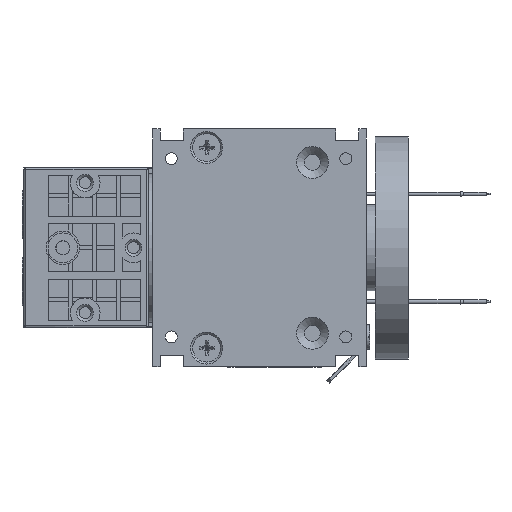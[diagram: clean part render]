
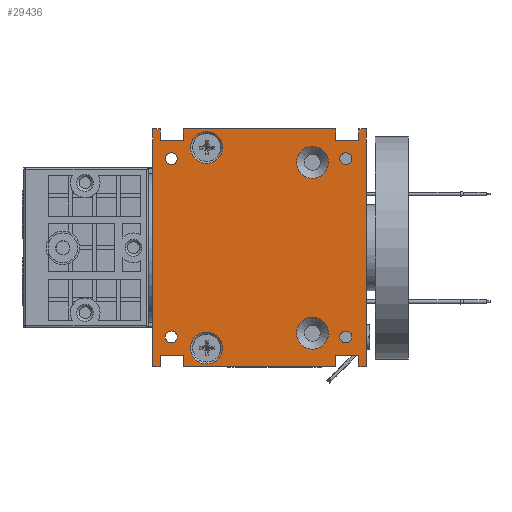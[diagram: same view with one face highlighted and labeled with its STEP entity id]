
A CAD part, front view. The second image highlights one B-rep face of the part: STEP entity #29436.
In plain terms, the highlighted planar face has unit normal (0, -1, 0).
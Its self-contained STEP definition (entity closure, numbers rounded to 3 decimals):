
#1179=CIRCLE('',#42875,1.62);
#1181=CIRCLE('',#42878,1.62);
#1183=CIRCLE('',#42881,1.62);
#1185=CIRCLE('',#42884,1.62);
#1187=CIRCLE('',#42888,4.3);
#1189=CIRCLE('',#42892,4.3);
#1192=CIRCLE('',#42897,4.3);
#1195=CIRCLE('',#42902,4.3);
#9069=ORIENTED_EDGE('',*,*,#13935,.T.);
#9070=ORIENTED_EDGE('',*,*,#13937,.T.);
#9071=ORIENTED_EDGE('',*,*,#13939,.T.);
#9072=ORIENTED_EDGE('',*,*,#13941,.T.);
#9073=ORIENTED_EDGE('',*,*,#13983,.F.);
#9074=ORIENTED_EDGE('',*,*,#14025,.F.);
#9075=ORIENTED_EDGE('',*,*,#14028,.F.);
#9076=ORIENTED_EDGE('',*,*,#14031,.F.);
#9077=ORIENTED_EDGE('',*,*,#14032,.T.);
#9078=ORIENTED_EDGE('',*,*,#14033,.T.);
#9079=ORIENTED_EDGE('',*,*,#14034,.T.);
#9080=ORIENTED_EDGE('',*,*,#14035,.T.);
#9081=ORIENTED_EDGE('',*,*,#14036,.T.);
#9082=ORIENTED_EDGE('',*,*,#14037,.T.);
#9083=ORIENTED_EDGE('',*,*,#14038,.T.);
#9084=ORIENTED_EDGE('',*,*,#14039,.T.);
#9085=ORIENTED_EDGE('',*,*,#14040,.T.);
#9086=ORIENTED_EDGE('',*,*,#14041,.T.);
#9087=ORIENTED_EDGE('',*,*,#14042,.T.);
#9088=ORIENTED_EDGE('',*,*,#14043,.T.);
#9089=ORIENTED_EDGE('',*,*,#14044,.T.);
#9090=ORIENTED_EDGE('',*,*,#14045,.T.);
#9091=ORIENTED_EDGE('',*,*,#14046,.T.);
#9092=ORIENTED_EDGE('',*,*,#14047,.T.);
#9093=ORIENTED_EDGE('',*,*,#14048,.T.);
#9094=ORIENTED_EDGE('',*,*,#14049,.T.);
#9095=ORIENTED_EDGE('',*,*,#14050,.T.);
#9096=ORIENTED_EDGE('',*,*,#14051,.T.);
#13935=EDGE_CURVE('',#17055,#17055,#1179,.T.);
#13937=EDGE_CURVE('',#17057,#17057,#1181,.T.);
#13939=EDGE_CURVE('',#17059,#17059,#1183,.T.);
#13941=EDGE_CURVE('',#17061,#17061,#1185,.T.);
#13983=EDGE_CURVE('',#17084,#17084,#1187,.T.);
#14025=EDGE_CURVE('',#17107,#17107,#1189,.T.);
#14028=EDGE_CURVE('',#17110,#17110,#1192,.T.);
#14031=EDGE_CURVE('',#17113,#17113,#1195,.T.);
#14032=EDGE_CURVE('',#17114,#17115,#19548,.T.);
#14033=EDGE_CURVE('',#17115,#17116,#19549,.T.);
#14034=EDGE_CURVE('',#17116,#17117,#19550,.T.);
#14035=EDGE_CURVE('',#17117,#17118,#19551,.T.);
#14036=EDGE_CURVE('',#17118,#17119,#19552,.T.);
#14037=EDGE_CURVE('',#17119,#17120,#19553,.T.);
#14038=EDGE_CURVE('',#17120,#17121,#19554,.T.);
#14039=EDGE_CURVE('',#17121,#17122,#19555,.T.);
#14040=EDGE_CURVE('',#17122,#17123,#19556,.T.);
#14041=EDGE_CURVE('',#17123,#17124,#19557,.T.);
#14042=EDGE_CURVE('',#17124,#17125,#19558,.T.);
#14043=EDGE_CURVE('',#17125,#17126,#19559,.T.);
#14044=EDGE_CURVE('',#17126,#17127,#19560,.T.);
#14045=EDGE_CURVE('',#17127,#17128,#19561,.T.);
#14046=EDGE_CURVE('',#17128,#17129,#19562,.T.);
#14047=EDGE_CURVE('',#17129,#17130,#19563,.T.);
#14048=EDGE_CURVE('',#17130,#17131,#19564,.T.);
#14049=EDGE_CURVE('',#17131,#17132,#19565,.T.);
#14050=EDGE_CURVE('',#17132,#17133,#19566,.T.);
#14051=EDGE_CURVE('',#17133,#17114,#19567,.T.);
#17055=VERTEX_POINT('',#60577);
#17057=VERTEX_POINT('',#60582);
#17059=VERTEX_POINT('',#60587);
#17061=VERTEX_POINT('',#60592);
#17084=VERTEX_POINT('',#61143);
#17107=VERTEX_POINT('',#61694);
#17110=VERTEX_POINT('',#61702);
#17113=VERTEX_POINT('',#61710);
#17114=VERTEX_POINT('',#61713);
#17115=VERTEX_POINT('',#61714);
#17116=VERTEX_POINT('',#61716);
#17117=VERTEX_POINT('',#61718);
#17118=VERTEX_POINT('',#61720);
#17119=VERTEX_POINT('',#61722);
#17120=VERTEX_POINT('',#61724);
#17121=VERTEX_POINT('',#61726);
#17122=VERTEX_POINT('',#61728);
#17123=VERTEX_POINT('',#61730);
#17124=VERTEX_POINT('',#61732);
#17125=VERTEX_POINT('',#61734);
#17126=VERTEX_POINT('',#61736);
#17127=VERTEX_POINT('',#61738);
#17128=VERTEX_POINT('',#61740);
#17129=VERTEX_POINT('',#61742);
#17130=VERTEX_POINT('',#61744);
#17131=VERTEX_POINT('',#61746);
#17132=VERTEX_POINT('',#61748);
#17133=VERTEX_POINT('',#61750);
#19548=LINE('',#61712,#21986);
#19549=LINE('',#61715,#21987);
#19550=LINE('',#61717,#21988);
#19551=LINE('',#61719,#21989);
#19552=LINE('',#61721,#21990);
#19553=LINE('',#61723,#21991);
#19554=LINE('',#61725,#21992);
#19555=LINE('',#61727,#21993);
#19556=LINE('',#61729,#21994);
#19557=LINE('',#61731,#21995);
#19558=LINE('',#61733,#21996);
#19559=LINE('',#61735,#21997);
#19560=LINE('',#61737,#21998);
#19561=LINE('',#61739,#21999);
#19562=LINE('',#61741,#22000);
#19563=LINE('',#61743,#22001);
#19564=LINE('',#61745,#22002);
#19565=LINE('',#61747,#22003);
#19566=LINE('',#61749,#22004);
#19567=LINE('',#61751,#22005);
#21986=VECTOR('',#50350,1000.);
#21987=VECTOR('',#50351,1000.);
#21988=VECTOR('',#50352,1000.);
#21989=VECTOR('',#50353,1000.);
#21990=VECTOR('',#50354,1000.);
#21991=VECTOR('',#50355,1000.);
#21992=VECTOR('',#50356,1000.);
#21993=VECTOR('',#50357,1000.);
#21994=VECTOR('',#50358,1000.);
#21995=VECTOR('',#50359,1000.);
#21996=VECTOR('',#50360,1000.);
#21997=VECTOR('',#50361,1000.);
#21998=VECTOR('',#50362,1000.);
#21999=VECTOR('',#50363,1000.);
#22000=VECTOR('',#50364,1000.);
#22001=VECTOR('',#50365,1000.);
#22002=VECTOR('',#50366,1000.);
#22003=VECTOR('',#50367,1000.);
#22004=VECTOR('',#50368,1000.);
#22005=VECTOR('',#50369,1000.);
#24381=EDGE_LOOP('',(#9069));
#24382=EDGE_LOOP('',(#9070));
#24383=EDGE_LOOP('',(#9071));
#24384=EDGE_LOOP('',(#9072));
#24385=EDGE_LOOP('',(#9073));
#24386=EDGE_LOOP('',(#9074));
#24387=EDGE_LOOP('',(#9075));
#24388=EDGE_LOOP('',(#9076));
#24389=EDGE_LOOP('',(#9077,#9078,#9079,#9080,#9081,#9082,#9083,#9084,#9085,
#9086,#9087,#9088,#9089,#9090,#9091,#9092,#9093,#9094,#9095,#9096));
#26698=FACE_BOUND('',#24381,.T.);
#26699=FACE_BOUND('',#24382,.T.);
#26700=FACE_BOUND('',#24383,.T.);
#26701=FACE_BOUND('',#24384,.T.);
#26702=FACE_BOUND('',#24385,.T.);
#26703=FACE_BOUND('',#24386,.T.);
#26704=FACE_BOUND('',#24387,.T.);
#26705=FACE_BOUND('',#24388,.T.);
#26706=FACE_BOUND('',#24389,.T.);
#27870=PLANE('',#42903);
#29436=ADVANCED_FACE('',(#26698,#26699,#26700,#26701,#26702,#26703,#26704,
#26705,#26706),#27870,.T.);
#42875=AXIS2_PLACEMENT_3D('',#60576,#50252,#50253);
#42878=AXIS2_PLACEMENT_3D('',#60581,#50258,#50259);
#42881=AXIS2_PLACEMENT_3D('',#60586,#50264,#50265);
#42884=AXIS2_PLACEMENT_3D('',#60591,#50270,#50271);
#42888=AXIS2_PLACEMENT_3D('',#61142,#50298,#50299);
#42892=AXIS2_PLACEMENT_3D('',#61693,#50326,#50327);
#42897=AXIS2_PLACEMENT_3D('',#61701,#50336,#50337);
#42902=AXIS2_PLACEMENT_3D('',#61709,#50346,#50347);
#42903=AXIS2_PLACEMENT_3D('',#61711,#50348,#50349);
#50252=DIRECTION('',(0.,1.,0.));
#50253=DIRECTION('',(-1.,0.,0.));
#50258=DIRECTION('',(0.,1.,0.));
#50259=DIRECTION('',(-1.,0.,0.));
#50264=DIRECTION('',(0.,1.,0.));
#50265=DIRECTION('',(-1.,0.,0.));
#50270=DIRECTION('',(0.,1.,0.));
#50271=DIRECTION('',(-1.,0.,0.));
#50298=DIRECTION('',(0.,-1.,0.));
#50299=DIRECTION('',(-1.,0.,0.));
#50326=DIRECTION('',(0.,-1.,0.));
#50327=DIRECTION('',(-1.,0.,0.));
#50336=DIRECTION('',(0.,-1.,0.));
#50337=DIRECTION('',(-1.,0.,0.));
#50346=DIRECTION('',(0.,-1.,0.));
#50347=DIRECTION('',(-1.,0.,0.));
#50348=DIRECTION('',(0.,-1.,0.));
#50349=DIRECTION('',(1.,0.,0.));
#50350=DIRECTION('',(1.,0.,0.));
#50351=DIRECTION('',(0.,0.,1.));
#50352=DIRECTION('',(1.,0.,0.));
#50353=DIRECTION('',(0.,0.,-1.));
#50354=DIRECTION('',(1.,0.,0.));
#50355=DIRECTION('',(0.,0.,1.));
#50356=DIRECTION('',(1.,0.,0.));
#50357=DIRECTION('',(0.,0.,-1.));
#50358=DIRECTION('',(1.,0.,0.));
#50359=DIRECTION('',(0.,0.,1.));
#50360=DIRECTION('',(-1.,0.,0.));
#50361=DIRECTION('',(0.,0.,-1.));
#50362=DIRECTION('',(-1.,0.,0.));
#50363=DIRECTION('',(0.,0.,1.));
#50364=DIRECTION('',(-1.,0.,0.));
#50365=DIRECTION('',(0.,0.,-1.));
#50366=DIRECTION('',(-1.,0.,0.));
#50367=DIRECTION('',(0.,0.,1.));
#50368=DIRECTION('',(-1.,0.,0.));
#50369=DIRECTION('',(0.,0.,-1.));
#60576=CARTESIAN_POINT('',(65.2,-32.8,24.));
#60577=CARTESIAN_POINT('',(63.58,-32.8,24.));
#60581=CARTESIAN_POINT('',(18.2,-32.8,24.));
#60582=CARTESIAN_POINT('',(16.58,-32.8,24.));
#60586=CARTESIAN_POINT('',(65.2,-32.8,-24.));
#60587=CARTESIAN_POINT('',(63.58,-32.8,-24.));
#60591=CARTESIAN_POINT('',(18.2,-32.8,-24.));
#60592=CARTESIAN_POINT('',(16.58,-32.8,-24.));
#61142=CARTESIAN_POINT('',(27.7,-32.8,27.));
#61143=CARTESIAN_POINT('',(23.4,-32.8,27.));
#61693=CARTESIAN_POINT('',(27.7,-32.8,-27.));
#61694=CARTESIAN_POINT('',(23.4,-32.8,-27.));
#61701=CARTESIAN_POINT('',(56.2,-32.8,23.));
#61702=CARTESIAN_POINT('',(51.9,-32.8,23.));
#61709=CARTESIAN_POINT('',(56.2,-32.8,-23.));
#61710=CARTESIAN_POINT('',(51.9,-32.8,-23.));
#61711=CARTESIAN_POINT('',(46.95,-32.8,0.));
#61712=CARTESIAN_POINT('',(46.95,-32.8,-32.));
#61713=CARTESIAN_POINT('',(13.2,-32.8,-32.));
#61714=CARTESIAN_POINT('',(15.2,-32.8,-32.));
#61715=CARTESIAN_POINT('',(15.2,-32.8,0.));
#61716=CARTESIAN_POINT('',(15.2,-32.8,-29.));
#61717=CARTESIAN_POINT('',(46.95,-32.8,-29.));
#61718=CARTESIAN_POINT('',(21.4,-32.8,-29.));
#61719=CARTESIAN_POINT('',(21.4,-32.8,0.));
#61720=CARTESIAN_POINT('',(21.4,-32.8,-32.));
#61721=CARTESIAN_POINT('',(46.95,-32.8,-32.));
#61722=CARTESIAN_POINT('',(62.5,-32.8,-32.));
#61723=CARTESIAN_POINT('',(62.5,-32.8,-32.));
#61724=CARTESIAN_POINT('',(62.5,-32.8,-29.));
#61725=CARTESIAN_POINT('',(46.95,-32.8,-29.));
#61726=CARTESIAN_POINT('',(68.7,-32.8,-29.));
#61727=CARTESIAN_POINT('',(68.7,-32.8,-29.));
#61728=CARTESIAN_POINT('',(68.7,-32.8,-32.));
#61729=CARTESIAN_POINT('',(46.95,-32.8,-32.));
#61730=CARTESIAN_POINT('',(70.7,-32.8,-32.));
#61731=CARTESIAN_POINT('',(70.7,-32.8,-32.));
#61732=CARTESIAN_POINT('',(70.7,-32.8,32.));
#61733=CARTESIAN_POINT('',(46.95,-32.8,32.));
#61734=CARTESIAN_POINT('',(68.7,-32.8,32.));
#61735=CARTESIAN_POINT('',(68.7,-32.8,0.));
#61736=CARTESIAN_POINT('',(68.7,-32.8,29.));
#61737=CARTESIAN_POINT('',(68.7,-32.8,29.));
#61738=CARTESIAN_POINT('',(62.5,-32.8,29.));
#61739=CARTESIAN_POINT('',(62.5,-32.8,0.));
#61740=CARTESIAN_POINT('',(62.5,-32.8,32.));
#61741=CARTESIAN_POINT('',(46.95,-32.8,32.));
#61742=CARTESIAN_POINT('',(21.4,-32.8,32.));
#61743=CARTESIAN_POINT('',(21.4,-32.8,32.));
#61744=CARTESIAN_POINT('',(21.4,-32.8,29.));
#61745=CARTESIAN_POINT('',(46.95,-32.8,29.));
#61746=CARTESIAN_POINT('',(15.2,-32.8,29.));
#61747=CARTESIAN_POINT('',(15.2,-32.8,29.));
#61748=CARTESIAN_POINT('',(15.2,-32.8,32.));
#61749=CARTESIAN_POINT('',(46.95,-32.8,32.));
#61750=CARTESIAN_POINT('',(13.2,-32.8,32.));
#61751=CARTESIAN_POINT('',(13.2,-32.8,32.));
